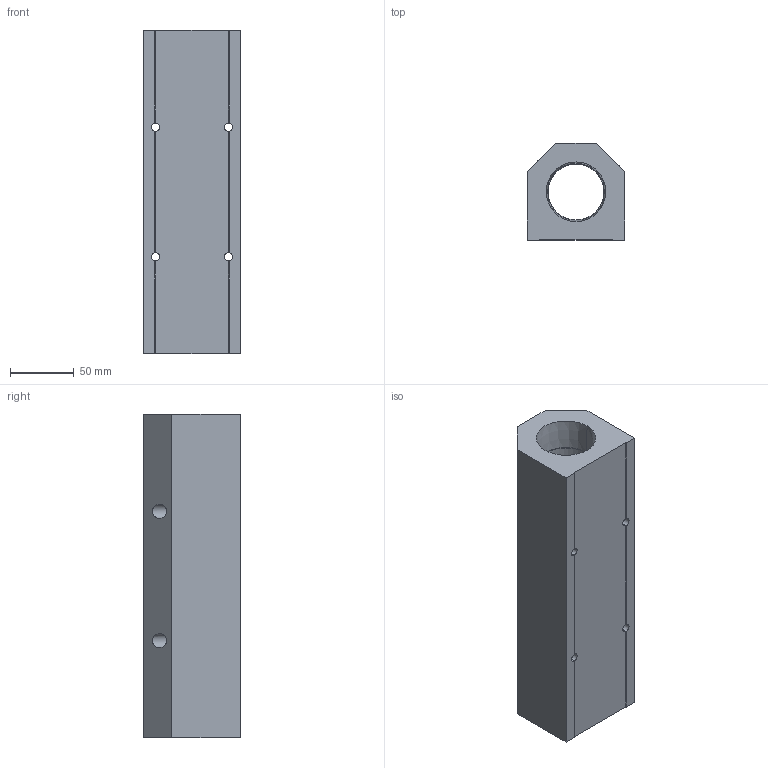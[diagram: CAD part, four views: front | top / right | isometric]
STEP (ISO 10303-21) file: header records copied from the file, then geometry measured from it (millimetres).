
FILE_DESCRIPTION (( 'STEP AP214' ), '1' );
FILE_NAME ('ALM4C-N8N24-254B.step', '2022-02-07T09:29:14', ( '' ), ( '' ), 'SwSTEP 2.0', 'SolidWorks 2020', '' );
FILE_SCHEMA (( 'AUTOMOTIVE_DESIGN' ));
Length unit declared in the file: millimetre
Products named in the file (1): ALM4C-N8N24-254B
Bounding box: 76.2 x 76.2 x 254 mm (x, y, z)
Volume: 918485.8 mm3; surface area: 120810.4 mm2
Topology: 1 solids, 1 shells, 300 faces, 790 edges, 524 vertices
Faces by surface type: plane 210, bspline 60, cylinder 18, cone 12
Entity records: 16109 total; most frequent: CARTESIAN_POINT 6283, ORIENTED_EDGE 1580, DIRECTION 1172, EDGE_CURVE 790, VECTOR 602, LINE 602, VERTEX_POINT 524, EDGE_LOOP 350
